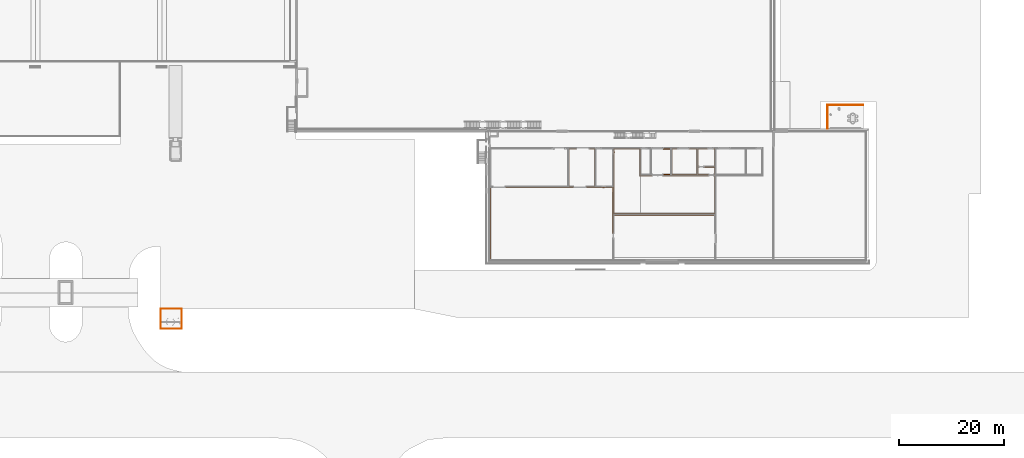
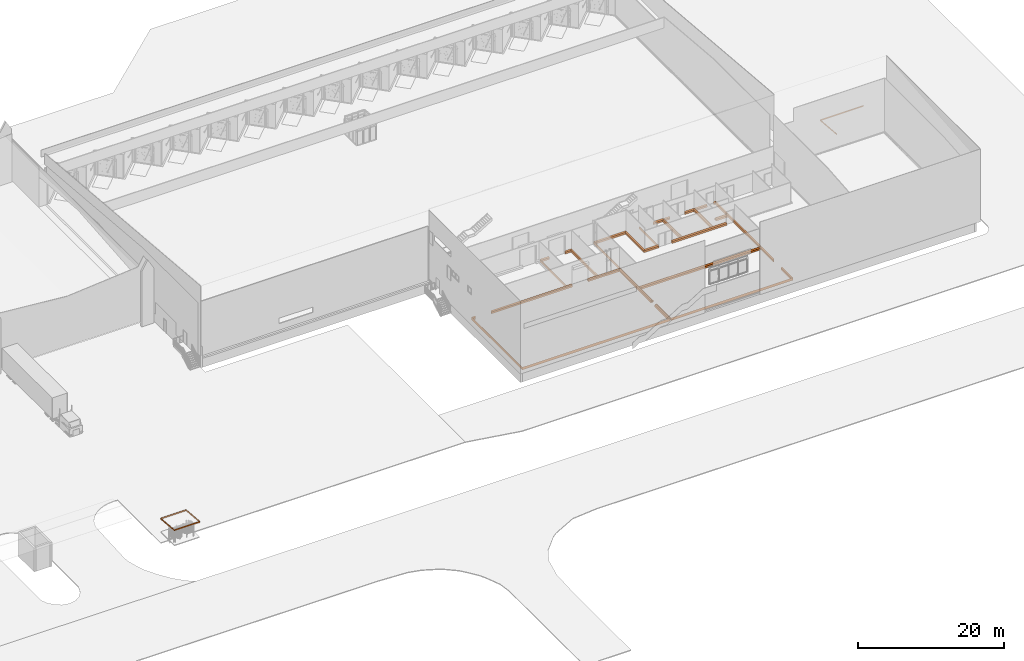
# One storey, part 64 of 64: 10 proxies.
"""IFC2X3 building model written with IfcOpenShell, lengths in millimetres."""

from ifc_helpers import new_model, entity, si_unit, converted_unit, derived_unit, direction, frame, origin, place, context, subcontext, project, spatial, faceted_brep, source, transform, mapped, material, type_object, type_shapes, element, save


model = new_model("IFC2X3")

# Units and contexts
model_context = context("Model", 3, precision=0.01, world=origin(), true_north=direction((4.05803320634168e-15, -1.0)))
body_context = subcontext(model_context, "Body", "Model", "MODEL_VIEW")
ifc_project = project(units=[si_unit("LENGTHUNIT", "METRE", prefix="MILLI"), si_unit("AREAUNIT", "SQUARE_METRE"), si_unit("VOLUMEUNIT", "CUBIC_METRE"), converted_unit("PLANEANGLEUNIT", "DEGREE", entity("IfcRatioMeasure", 0.0174532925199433), si_unit("PLANEANGLEUNIT", "RADIAN"), dimensions=[0, 0, 0, 0, 0, 0, 0]), si_unit("MASSUNIT", "GRAM", prefix="KILO"), derived_unit("MASSDENSITYUNIT", [(si_unit("MASSUNIT", "GRAM", prefix="KILO"), 1), (si_unit("LENGTHUNIT", "METRE"), -3)]), si_unit("TIMEUNIT", "SECOND"), si_unit("FREQUENCYUNIT", "HERTZ"), si_unit("THERMODYNAMICTEMPERATUREUNIT", "DEGREE_CELSIUS"), derived_unit("THERMALTRANSMITTANCEUNIT", [(si_unit("MASSUNIT", "GRAM", prefix="KILO"), 1), (si_unit("THERMODYNAMICTEMPERATUREUNIT", "KELVIN"), -1), (si_unit("TIMEUNIT", "SECOND"), -3)]), derived_unit("VOLUMETRICFLOWRATEUNIT", [(si_unit("LENGTHUNIT", "METRE"), 3), (si_unit("TIMEUNIT", "SECOND"), -1)]), si_unit("ELECTRICCURRENTUNIT", "AMPERE"), si_unit("ELECTRICVOLTAGEUNIT", "VOLT"), si_unit("POWERUNIT", "WATT"), si_unit("FORCEUNIT", "NEWTON", prefix="KILO"), si_unit("ILLUMINANCEUNIT", "LUX"), si_unit("LUMINOUSFLUXUNIT", "LUMEN"), si_unit("LUMINOUSINTENSITYUNIT", "CANDELA"), derived_unit("USERDEFINED", [(si_unit("MASSUNIT", "GRAM", prefix="KILO"), -1), (si_unit("LENGTHUNIT", "METRE"), -2), (si_unit("TIMEUNIT", "SECOND"), 3), (si_unit("LUMINOUSFLUXUNIT", "LUMEN"), 1)]), derived_unit("LINEARVELOCITYUNIT", [(si_unit("LENGTHUNIT", "METRE"), 1), (si_unit("TIMEUNIT", "SECOND"), -1)]), si_unit("PRESSUREUNIT", "PASCAL"), derived_unit("USERDEFINED", [(si_unit("LENGTHUNIT", "METRE"), -2), (si_unit("MASSUNIT", "GRAM", prefix="KILO"), 1), (si_unit("TIMEUNIT", "SECOND"), -2)])], contexts=[model_context])

# Site, building, storey
site_placement = place(None, frame((927466.849349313, 583801.882853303, 0.0), z_axis=(0.0, 0.0, 1.0), x_axis=(-1.0, 0.0, 0.0)))
site = spatial("IfcSite", under=ifc_project, at=site_placement, Name="Surface", CompositionType="ELEMENT")
building_placement = place(site_placement, origin())
building = spatial("IfcBuilding", under=site, at=building_placement, CompositionType="ELEMENT")
storey_placement = place(building_placement, frame((0.0, 0.0, 44170.0)))
storey = spatial("IfcBuildingStorey", under=building, at=storey_placement, Name="Ground FFL", CompositionType="ELEMENT", Elevation=44170.0)

# Proxies
ifc_material = material(Name="conc bund")
building_element_proxy_type_1 = type_object("IfcBuildingElementProxyType", Name="Generic Models 32", PredefinedType="NOTDEFINED", material=ifc_material)
shared_shape_1 = source(origin(), body_context, "Body", "Brep", [
    faceted_brep([(23250.0, 13698.4995753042, 300.0), (23250.0, 13698.4995753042, 0.0), (23250.0, 150.0, 0.0), (23250.0, 150.0, 300.0), (23400.0, 13848.4995753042, 460.0), (23400.0, 0.0, 460.0), (23400.0, 13848.4995753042, 0.0), (23400.0, 0.0, 0.0), (22840.0, 150.0, 0.0), (22840.0, 150.0, 300.0), (22840.0, 0.0, 460.0), (22840.0, 0.0, 0.0), (150.0, 13698.4995753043, 300.0), (150.0, 13698.4995753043, 0.0), (0.0, 13848.4995753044, 460.0), (0.0, 13848.4995753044, 0.0), (150.0, 9848.4995753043, 0.0), (150.0, 9848.4995753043, 300.0), (0.0, 9848.4995753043, 460.0), (0.0, 9848.4995753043, 0.0)], [[[0, 1, 2, 3]], [[4, 0, 3, 5]], [[6, 4, 5, 7]], [[3, 2, 8, 9]], [[5, 3, 9, 10]], [[7, 5, 10, 11]], [[12, 13, 1, 0]], [[14, 12, 0, 4]], [[15, 14, 4, 6]], [[16, 17, 18, 19]], [[8, 11, 10, 9]], [[17, 16, 13, 12]], [[18, 17, 12, 14]], [[19, 18, 14, 15]], [[16, 19, 15, 6, 7, 11, 8, 2, 1, 13]]]),
])
type_shapes(building_element_proxy_type_1, [shared_shape_1])
proxy_1_placement = place(storey_placement, frame((-104847.937276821, 22507.4703266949, 0.0)))
element("IfcBuildingElementProxy", 1, at=proxy_1_placement, inside=storey, type_object=building_element_proxy_type_1, material=ifc_material, Name="Generic Models 34:Generic Models 32", ObjectType="Generic Models 32", context=body_context, shape_type="MappedRepresentation", body=[
    mapped(shared_shape_1, transform((0.0, 0.0, 0.0), scale=1.0)),
])
building_element_proxy_type_2 = type_object("IfcBuildingElementProxyType", Name="Generic Models 32", PredefinedType="NOTDEFINED", material=ifc_material)
shared_shape_2 = source(origin(), body_context, "Body", "Brep", [
    faceted_brep([(20340.0, 150.0, 0.0), (20340.0, 150.0, 300.0), (20340.0, 0.0, 460.0), (20340.0, 0.0, 0.0), (7545.23765574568, 150.0, 0.0), (7545.23765574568, 0.0, 0.0), (7545.23765574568, 0.0, 460.0), (7545.23765574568, 150.0, 300.0)], [[[0, 1, 2, 3]], [[4, 5, 6, 7]], [[1, 0, 4, 7]], [[2, 1, 7, 6]], [[3, 2, 6, 5]], [[0, 3, 5, 4]]]),
    faceted_brep([(150.0, 150.0, 300.0), (150.0, 150.0, 0.0), (150.0, 8793.44485351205, 0.0), (150.0, 8793.44485351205, 300.0), (0.0, 0.0, 460.0), (0.0, 8793.44485351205, 460.0), (0.0, 0.0, 0.0), (0.0, 8793.44485351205, 0.0), (5040.0, 150.0, 0.0), (5040.0, 150.0, 300.0), (5040.0, 0.0, 460.0), (5040.0, 0.0, 0.0)], [[[0, 1, 2, 3]], [[4, 0, 3, 5]], [[6, 4, 5, 7]], [[8, 9, 10, 11]], [[2, 7, 5, 3]], [[9, 8, 1, 0]], [[10, 9, 0, 4]], [[11, 10, 4, 6]], [[8, 11, 6, 7, 2, 1]]]),
])
type_shapes(building_element_proxy_type_2, [shared_shape_2])
proxy_2_placement = place(storey_placement, frame((-104847.937276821, 22507.470326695, 0.0)))
element("IfcBuildingElementProxy", 2, at=proxy_2_placement, inside=storey, type_object=building_element_proxy_type_2, material=ifc_material, Name="Generic Models 61:Generic Models 32", ObjectType="Generic Models 32", context=body_context, shape_type="MappedRepresentation", body=[
    mapped(shared_shape_2, transform((0.0, 0.0, 0.0), scale=1.0)),
])
building_element_proxy_type_3 = type_object("IfcBuildingElementProxyType", Name="Generic Models 32", PredefinedType="NOTDEFINED", material=ifc_material)
shared_shape_3 = source(origin(), body_context, "Body", "Brep", [
    faceted_brep([(3570.0, 150.0, 0.0), (3570.0, 0.0, 0.0), (3570.0, 0.0, 460.0), (3570.0, 150.0, 300.0), (4850.0, 150.0, 0.0), (4850.0, 150.0, 300.0), (4850.0, 7050.0, 300.0), (4850.0, 7050.0, 0.0), (5000.0, 0.0, 460.0), (5000.0, 7200.0, 460.0), (5000.0, 0.0, 0.0), (5000.0, 7200.0, 0.0), (4145.23765574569, 7050.0, 0.0), (4145.23765574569, 7050.0, 300.0), (4145.23765574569, 7200.0, 460.0), (4145.23765574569, 7200.0, 0.0)], [[[0, 1, 2, 3]], [[4, 5, 6, 7]], [[5, 8, 9, 6]], [[8, 10, 11, 9]], [[12, 13, 14, 15]], [[7, 6, 13, 12]], [[6, 9, 14, 13]], [[9, 11, 15, 14]], [[0, 3, 5, 4]], [[3, 2, 8, 5]], [[2, 1, 10, 8]], [[1, 0, 4, 7, 12, 15, 11, 10]]]),
    faceted_brep([(150.0, 150.0, 300.0), (150.0, 150.0, 0.0), (150.0, 7050.0, 0.0), (150.0, 7050.0, 300.0), (0.0, 0.0, 460.0), (0.0, 7200.0, 460.0), (0.0, 0.0, 0.0), (0.0, 7200.0, 0.0), (1620.0, 7050.0, 0.0), (1620.0, 7050.0, 300.0), (1620.0, 7200.0, 460.0), (1620.0, 7200.0, 0.0), (1070.0, 150.0, 0.0), (1070.0, 150.0, 300.0), (1070.0, 0.0, 460.0), (1070.0, 0.0, 0.0)], [[[0, 1, 2, 3]], [[4, 0, 3, 5]], [[6, 4, 5, 7]], [[3, 2, 8, 9]], [[5, 3, 9, 10]], [[7, 5, 10, 11]], [[12, 13, 14, 15]], [[8, 11, 10, 9]], [[13, 12, 1, 0]], [[14, 13, 0, 4]], [[15, 14, 4, 6]], [[12, 15, 6, 7, 11, 8, 2, 1]]]),
])
type_shapes(building_element_proxy_type_3, [shared_shape_3])
proxy_3_placement = place(storey_placement, frame((-101447.937276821, 15207.4703266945, 0.0)))
element("IfcBuildingElementProxy", 3, at=proxy_3_placement, inside=storey, type_object=building_element_proxy_type_3, material=ifc_material, Name="Generic Models 66:Generic Models 32", ObjectType="Generic Models 32", context=body_context, shape_type="MappedRepresentation", body=[
    mapped(shared_shape_3, transform((0.0, 0.0, 0.0), scale=1.0)),
])
building_element_proxy_type_4 = type_object("IfcBuildingElementProxyType", Name="Generic Models 32", PredefinedType="NOTDEFINED", material=ifc_material)
shared_shape_4 = source(origin(), body_context, "Body", "Brep", [
    faceted_brep([(3650.0, 0.0, 0.0), (3800.0, 0.0, 0.0), (3800.0, 0.0, 460.0), (3650.0, 0.0, 300.0), (3650.0, 5000.02217964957, 300.0), (3650.0, 5000.02217964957, 0.0), (3800.0, 5000.02217964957, 460.0), (3800.0, 5000.02217964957, 0.0)], [[[0, 1, 2, 3]], [[0, 3, 4, 5]], [[3, 2, 6, 4]], [[2, 1, 7, 6]], [[1, 0, 5, 7]], [[5, 4, 6, 7]]]),
    faceted_brep([(150.0, 150.0, 300.0), (150.0, 150.0, 0.0), (150.0, 4850.02217964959, 0.0), (150.0, 4850.0221796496, 300.0), (0.0, 0.0, 460.0), (0.0, 5000.0221796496, 460.0), (0.0, 0.0, 0.0), (0.0, 5000.0221796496, 0.0), (1579.43748988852, 4850.02217964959, 0.0), (1579.43748988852, 4850.02217964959, 300.0), (1579.43748988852, 5000.02217964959, 460.0), (1579.43748988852, 5000.02217964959, 0.0), (1590.0, 150.0, 0.0), (1590.0, 150.0, 300.0), (1590.0, 0.0, 460.0), (1590.0, 0.0, 0.0)], [[[0, 1, 2, 3]], [[4, 0, 3, 5]], [[6, 4, 5, 7]], [[3, 2, 8, 9]], [[5, 3, 9, 10]], [[7, 5, 10, 11]], [[12, 13, 14, 15]], [[8, 11, 10, 9]], [[13, 12, 1, 0]], [[14, 13, 0, 4]], [[15, 14, 4, 6]], [[12, 15, 6, 7, 11, 8, 2, 1]]]),
])
type_shapes(building_element_proxy_type_4, [shared_shape_4])
proxy_4_placement = place(storey_placement, frame((-115927.374766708, 15207.4703266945, 0.0)))
element("IfcBuildingElementProxy", 4, at=proxy_4_placement, inside=storey, type_object=building_element_proxy_type_4, material=ifc_material, Name="Generic Models 38:Generic Models 32", ObjectType="Generic Models 32", context=body_context, shape_type="MappedRepresentation", body=[
    mapped(shared_shape_4, transform((0.0, 0.0, 0.0), scale=1.0)),
])
building_element_proxy_type_5 = type_object("IfcBuildingElementProxyType", Name="Generic Models 32", PredefinedType="NOTDEFINED", material=ifc_material)
shared_shape_5 = source(origin(), body_context, "Body", "Brep", [
    faceted_brep([(9900.0, 5250.02217964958, 0.0), (9900.0, 5250.02217964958, 300.0), (9900.0, 5100.02217964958, 460.0), (9900.0, 5100.02217964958, 0.0), (1260.0, 5250.02217964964, 0.0), (1260.0, 5100.02217964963, 0.0), (1260.0, 5100.02217964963, 460.0), (1260.0, 5250.02217964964, 300.0)], [[[0, 1, 2, 3]], [[4, 5, 6, 7]], [[1, 0, 4, 7]], [[2, 1, 7, 6]], [[3, 2, 6, 5]], [[0, 3, 5, 4]]]),
    faceted_brep([(150.0, 5100.02217964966, 300.0), (150.0, 5100.02217964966, 0.0), (150.0, 12250.9448535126, 0.0), (150.0, 12250.9448535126, 300.0), (0.0, 5100.02217964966, 460.0), (0.0, 12400.9448535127, 460.0), (0.0, 5100.02217964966, 0.0), (0.0, 12400.9448535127, 0.0), (19150.0, 12250.9448535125, 0.0), (19150.0, 12250.9448535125, 300.0), (19300.0, 12400.9448535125, 460.0), (19300.0, 12400.9448535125, 0.0), (12020.0, 5250.02217964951, 0.0), (12020.0, 5100.02217964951, 0.0), (12020.0, 5100.02217964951, 460.0), (12020.0, 5250.02217964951, 300.0), (19150.0, 150.0, 0.0), (19150.0, 150.0, 300.0), (19300.0, 0.0, 460.0), (19300.0, 0.0, 0.0), (14220.0, 0.0, 0.0), (14220.0, 5100.0221796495, 0.0), (14370.0, 5250.0221796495, 0.0), (14370.0, 150.0, 0.0), (14370.0, 150.0, 300.0), (14220.0, 0.0, 460.0), (14370.0, 5250.0221796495, 300.0), (14220.0, 5100.0221796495, 460.0)], [[[0, 1, 2, 3]], [[4, 0, 3, 5]], [[6, 4, 5, 7]], [[3, 2, 8, 9]], [[5, 3, 9, 10]], [[7, 5, 10, 11]], [[1, 0, 4, 6]], [[12, 13, 14, 15]], [[9, 8, 16, 17]], [[10, 9, 17, 18]], [[11, 10, 18, 19]], [[1, 6, 7, 11, 19, 20, 21, 13, 12, 22, 23, 16, 8, 2]], [[17, 16, 23, 24]], [[18, 17, 24, 25]], [[19, 18, 25, 20]], [[24, 23, 22, 26]], [[25, 24, 26, 27]], [[20, 25, 27, 21]], [[26, 22, 12, 15]], [[27, 26, 15, 14]], [[21, 27, 14, 13]]]),
])
type_shapes(building_element_proxy_type_5, [shared_shape_5])
proxy_5_placement = place(storey_placement, frame((-124247.937276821, 15207.4703266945, 0.0)))
element("IfcBuildingElementProxy", 5, at=proxy_5_placement, inside=storey, type_object=building_element_proxy_type_5, material=ifc_material, Name="Generic Models 62:Generic Models 32", ObjectType="Generic Models 32", context=body_context, shape_type="MappedRepresentation", body=[
    mapped(shared_shape_5, transform((0.0, 0.0, 0.0), scale=1.0)),
])
building_element_proxy_type_6 = type_object("IfcBuildingElementProxyType", Name="Generic Models 32", PredefinedType="NOTDEFINED", material=ifc_material)
shared_shape_6 = source(origin(), body_context, "Body", "Brep", [
    faceted_brep([(150.0, 5000.0221796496, 0.0), (0.0, 5000.0221796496, 0.0), (0.0, 5000.0221796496, 460.0), (150.0, 5000.0221796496, 300.0), (150.0, 3650.0, 300.0), (150.0, 3650.0, 0.0), (0.0, 3500.0, 460.0), (0.0, 3500.0, 0.0), (2060.0, 3650.0, 0.0), (2060.0, 3500.0, 0.0), (2060.0, 3650.0, 300.0), (2060.0, 3500.0, 460.0)], [[[0, 1, 2, 3]], [[0, 3, 4, 5]], [[3, 2, 6, 4]], [[2, 1, 7, 6]], [[1, 0, 5, 8, 9, 7]], [[8, 10, 11, 9]], [[5, 4, 10, 8]], [[4, 6, 11, 10]], [[6, 7, 9, 11]]]),
    faceted_brep([(1421.69145602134, 150.0, 0.0), (1421.69145602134, 7.16208319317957e-09, 0.0), (1421.69145602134, 7.16208319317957e-09, 460.0), (1421.69145602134, 150.0, 300.0), (3170.5625101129, 150.0, 0.0), (3170.5625101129, 150.0, 300.0), (3170.56251011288, 4850.02217964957, 300.0), (3170.56251011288, 4850.02217964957, 0.0), (3320.5625101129, 7.15991745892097e-09, 460.0), (3320.56251011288, 5000.02217964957, 460.0), (3320.5625101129, 7.15991745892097e-09, 0.0), (3320.56251011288, 5000.02217964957, 0.0), (1280.56251011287, 4850.0221796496, 0.0), (1280.56251011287, 4850.0221796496, 300.0), (1280.56251011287, 5000.0221796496, 460.0), (1280.56251011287, 5000.0221796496, 0.0)], [[[0, 1, 2, 3]], [[4, 5, 6, 7]], [[5, 8, 9, 6]], [[8, 10, 11, 9]], [[12, 13, 14, 15]], [[1, 0, 4, 7, 12, 15, 11, 10]], [[2, 1, 10, 8]], [[3, 2, 8, 5]], [[0, 3, 5, 4]], [[9, 11, 15, 14]], [[6, 9, 14, 13]], [[7, 6, 13, 12]]]),
    faceted_brep([(150.0, 150.0, 300.0), (150.0, 150.0, 0.0), (150.0, 3250.0, 0.0), (150.0, 3250.0, 300.0), (0.0, 0.0, 460.0), (0.0, 3400.0, 460.0), (0.0, 0.0, 0.0), (0.0, 3400.0, 0.0), (2060.0, 3250.0, 0.0), (2060.0, 3250.0, 300.0), (2060.0, 3400.0, 460.0), (2060.0, 3400.0, 0.0), (370.0, 150.0, 0.0), (370.0, 150.0, 300.0), (370.0, 0.0, 460.0), (370.0, 0.0, 0.0)], [[[0, 1, 2, 3]], [[4, 0, 3, 5]], [[6, 4, 5, 7]], [[3, 2, 8, 9]], [[5, 3, 9, 10]], [[7, 5, 10, 11]], [[12, 13, 14, 15]], [[8, 11, 10, 9]], [[13, 12, 1, 0]], [[14, 13, 0, 4]], [[15, 14, 4, 6]], [[12, 15, 6, 7, 11, 8, 2, 1]]]),
])
type_shapes(building_element_proxy_type_6, [shared_shape_6])
proxy_6_placement = place(storey_placement, frame((-124247.937276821, 15207.4703266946, 0.0)))
element("IfcBuildingElementProxy", 6, at=proxy_6_placement, inside=storey, type_object=building_element_proxy_type_6, material=ifc_material, Name="Generic Models 40:Generic Models 32", ObjectType="Generic Models 32", context=body_context, shape_type="MappedRepresentation", body=[
    mapped(shared_shape_6, transform((0.0, 0.0, 0.0), scale=1.0)),
])
building_element_proxy_type_7 = type_object("IfcBuildingElementProxyType", Name="Generic Models 32", PredefinedType="NOTDEFINED", material=ifc_material)
shared_shape_7 = source(origin(), body_context, "Body", "Brep", [
    faceted_brep([(19150.0, 4647.55472179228, 0.0), (19300.0, 4647.55472179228, 0.0), (19300.0, 4647.55472179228, 460.0), (19150.0, 4647.55472179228, 300.0), (19150.0, 8497.55472179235, 0.0), (19150.0, 8497.55472179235, 300.0), (150.0, 8497.55472179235, 300.0), (150.0, 8497.55472179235, 0.0), (19300.0, 8647.55472179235, 460.0), (0.0, 8647.55472179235, 460.0), (19300.0, 8647.55472179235, 0.0), (0.0, 8647.55472179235, 0.0), (150.0, 5632.50000000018, 0.0), (150.0, 5632.50000000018, 300.0), (0.0, 5632.50000000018, 460.0), (0.0, 5632.50000000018, 0.0)], [[[0, 1, 2, 3]], [[4, 5, 6, 7]], [[5, 8, 9, 6]], [[8, 10, 11, 9]], [[12, 13, 14, 15]], [[7, 6, 13, 12]], [[6, 9, 14, 13]], [[9, 11, 15, 14]], [[0, 3, 5, 4]], [[3, 2, 8, 5]], [[2, 1, 10, 8]], [[1, 0, 4, 7, 12, 15, 11, 10]]]),
    faceted_brep([(19150.0, 150.0, 300.0), (19150.0, 150.0, 0.0), (150.0, 150.0, 0.0), (150.0, 150.0, 300.0), (19300.0, 0.0, 460.0), (0.0, 0.0, 460.0), (19300.0, 0.0, 0.0), (0.0, 0.0, 0.0), (150.0, 3532.50000000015, 0.0), (150.0, 3532.50000000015, 300.0), (0.0, 3532.50000000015, 460.0), (0.0, 3532.50000000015, 0.0), (19150.0, 3592.50000000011, 0.0), (19150.0, 3592.50000000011, 300.0), (19300.0, 3592.50000000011, 460.0), (19300.0, 3592.50000000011, 0.0)], [[[0, 1, 2, 3]], [[4, 0, 3, 5]], [[6, 4, 5, 7]], [[3, 2, 8, 9]], [[5, 3, 9, 10]], [[7, 5, 10, 11]], [[12, 13, 14, 15]], [[8, 11, 10, 9]], [[13, 12, 1, 0]], [[14, 13, 0, 4]], [[15, 14, 4, 6]], [[12, 15, 6, 7, 11, 8, 2, 1]]]),
])
type_shapes(building_element_proxy_type_7, [shared_shape_7])
proxy_7_placement = place(storey_placement, frame((-124247.937276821, 27708.415180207, 0.0)))
element("IfcBuildingElementProxy", 7, at=proxy_7_placement, inside=storey, type_object=building_element_proxy_type_7, material=ifc_material, Name="Generic Models 67:Generic Models 32", ObjectType="Generic Models 32", context=body_context, shape_type="MappedRepresentation", body=[
    mapped(shared_shape_7, transform((0.0, 0.0, 0.0), scale=1.0)),
])
building_element_proxy_type_8 = type_object("IfcBuildingElementProxyType", Name="Generic Models 32", PredefinedType="NOTDEFINED", material=ifc_material)
shared_shape_8 = source(origin(), body_context, "Body", "Brep", [
    faceted_brep([(150.0, 150.0, 300.0), (150.0, 150.0, 0.0), (150.0, 4850.02217964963, 0.0), (150.0, 4850.02217964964, 300.0), (0.0, 0.0, 460.0), (0.0, 5000.02217964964, 460.0), (0.0, 0.0, 0.0), (0.0, 5000.02217964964, 0.0), (4650.0, 4850.02217964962, 0.0), (4650.0, 4850.02217964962, 300.0), (4800.0, 5000.02217964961, 460.0), (4800.0, 5000.02217964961, 0.0), (1533.11708795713, 150.0, 0.0), (1533.11708795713, 150.0, 300.0), (1533.11708795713, 0.0, 460.0), (1533.11708795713, 0.0, 0.0), (3876.78298681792, 150.0, 0.0), (3876.78298681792, 7.1404258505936e-09, 0.0), (3876.78298681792, 7.1404258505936e-09, 460.0), (3876.78298681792, 150.0, 300.0), (4800.0, 7.13609438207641e-09, 0.0), (4650.0, 150.0, 0.0), (4650.0, 150.0, 300.0), (4800.0, 7.13609438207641e-09, 460.0)], [[[0, 1, 2, 3]], [[4, 0, 3, 5]], [[6, 4, 5, 7]], [[3, 2, 8, 9]], [[5, 3, 9, 10]], [[7, 5, 10, 11]], [[12, 13, 14, 15]], [[16, 17, 18, 19]], [[13, 12, 1, 0]], [[14, 13, 0, 4]], [[15, 14, 4, 6]], [[12, 15, 6, 7, 11, 20, 17, 16, 21, 8, 2, 1]], [[9, 8, 21, 22]], [[10, 9, 22, 23]], [[11, 10, 23, 20]], [[22, 21, 16, 19]], [[23, 22, 19, 18]], [[20, 23, 18, 17]]]),
])
type_shapes(building_element_proxy_type_8, [shared_shape_8])
proxy_8_placement = place(storey_placement, frame((-120827.374766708, 15207.4703266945, 0.0)))
element("IfcBuildingElementProxy", 8, at=proxy_8_placement, inside=storey, type_object=building_element_proxy_type_8, material=ifc_material, Name="Generic Models 63:Generic Models 32", ObjectType="Generic Models 32", context=body_context, shape_type="MappedRepresentation", body=[
    mapped(shared_shape_8, transform((0.0, 0.0, 0.0), scale=1.0)),
])
proxy_9_placement = place(storey_placement, frame((-152390.801407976, 6900.01582707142, 1335.0)))
element("IfcBuildingElementProxy", 9, at=proxy_9_placement, inside=storey, Name="Fascia:Fascia", ObjectType="Fascia:Fascia", context=body_context, shape_type="Brep", body=[
    faceted_brep([(6839.25555844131, 4548.26192414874, 631.259072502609), (6839.25555844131, 4548.26192414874, 395.361410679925), (6820.25555844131, 4548.26192414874, 395.361410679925), (6820.25555844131, 4548.26192414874, 631.259072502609), (6820.25555844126, 19.0, 235.0), (6839.25555844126, 19.0, 235.0), (6820.25555844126, 29.2603215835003, 0.0), (6839.25555844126, 29.2603215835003, 0.0), (0.0, 0.0, 235.0), (0.0, 19.0, 235.0), (0.0, 19.0, 0.0), (0.0, 0.0, 0.0), (6839.25555844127, 0.0, 235.0), (6820.25555844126, 19.0, 0.0), (6839.25555844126, 0.0, 0.0)], [[[0, 1, 2, 3]], [[4, 5, 0, 3]], [[6, 4, 3, 2]], [[7, 6, 2, 1]], [[5, 7, 1, 0]], [[8, 9, 10, 11]], [[9, 8, 12, 4]], [[10, 9, 4, 13]], [[11, 10, 13, 14]], [[8, 11, 14, 12]], [[4, 12, 5]], [[13, 4, 6]], [[14, 13, 6, 7]], [[12, 14, 7, 5]]]),
])
proxy_10_placement = place(storey_placement, frame((-22962.883487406, 45632.9991707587, 2565.0)))
element("IfcBuildingElementProxy", 10, at=proxy_10_placement, inside=storey, Name="Fascia:Fascia", ObjectType="Fascia:Fascia", context=body_context, shape_type="Brep", body=[
    faceted_brep([(0.0, 3747.36286884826, 561.189484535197), (19.0, 3747.36286884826, 561.189484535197), (19.0, 3747.36286884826, 325.291822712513), (0.0, 3747.36286884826, 325.291822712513), (0.0, 19.0, 235.0), (19.0, 19.0, 235.0), (19.0, 29.2603215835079, 0.0), (0.0, 29.2603215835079, 0.0), (0.0, 0.0, 235.0), (19.0, 19.0, 0.0), (0.0, 0.0, 0.0), (4048.93004782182, 0.0, 235.0), (4029.93004782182, 19.0, 235.0), (4029.93004782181, 19.0, 0.0), (4048.93004782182, 0.0, 0.0), (4048.93004782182, 19.0, 235.0), (4029.93004782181, 29.2603215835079, 0.0), (4048.93004782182, 29.2603215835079, 0.0), (4048.93004782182, 3747.36286884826, 561.189484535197), (4048.93004782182, 3747.36286884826, 325.291822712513), (4029.93004782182, 3747.36286884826, 325.291822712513), (4029.93004782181, 3747.36286884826, 561.189484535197)], [[[0, 1, 2, 3]], [[1, 0, 4, 5]], [[2, 1, 5, 6]], [[3, 2, 6, 7]], [[0, 3, 7, 4]], [[5, 4, 8]], [[6, 5, 9]], [[7, 6, 9, 10]], [[4, 7, 10, 8]], [[5, 8, 11, 12]], [[9, 5, 12, 13]], [[10, 9, 13, 14]], [[8, 10, 14, 11]], [[12, 11, 15]], [[13, 12, 16]], [[14, 13, 16, 17]], [[11, 14, 17, 15]], [[18, 19, 20, 21]], [[12, 15, 18, 21]], [[16, 12, 21, 20]], [[17, 16, 20, 19]], [[15, 17, 19, 18]]]),
    faceted_brep([(4029.93004782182, 3766.36286884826, 561.189484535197), (4029.93004782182, 3747.36286884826, 561.189484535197), (4029.93004782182, 3747.36286884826, 326.189484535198), (4029.93004782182, 3766.36286884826, 326.189484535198), (19.0, 3766.36286884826, 561.189484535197), (19.0, 3766.36286884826, 326.189484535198), (19.0, 3747.36286884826, 326.189484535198), (19.0, 3747.36286884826, 561.189484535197)], [[[0, 1, 2, 3]], [[4, 5, 6, 7]], [[1, 0, 4, 7]], [[2, 1, 7, 6]], [[3, 2, 6, 5]], [[0, 3, 5, 4]]]),
])

save(model, "model.ifc")
